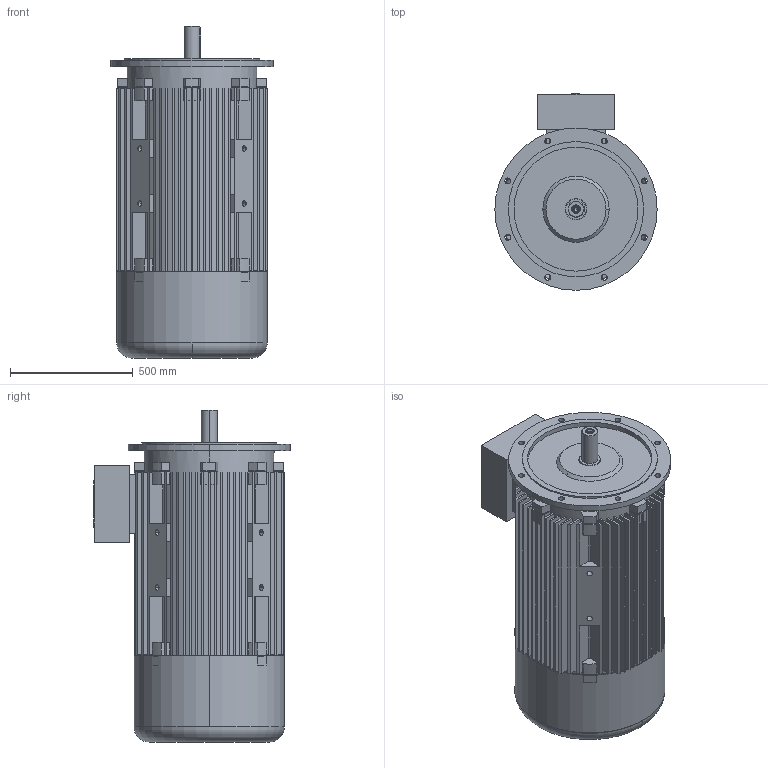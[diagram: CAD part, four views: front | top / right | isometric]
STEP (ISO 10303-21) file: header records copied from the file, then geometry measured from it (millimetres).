
FILE_DESCRIPTION (( 'STEP AP203' ), '1' );
FILE_NAME ('20.18382_B 7AZ 315LX -2 B5 STANDK.STEP', '2018-04-06T05:08:53', ( '' ), ( '' ), 'SwSTEP 2.0', 'SolidWorks 2017', '' );
FILE_SCHEMA (( 'CONFIG_CONTROL_DESIGN' ));
Length unit declared in the file: millimetre
Products named in the file (1): 20.18382_B  7AZ 315LX -2 B5 STANDK
Bounding box: 660 x 800 x 1350 mm (x, y, z)
Volume: 93823735.3 mm3; surface area: 11563630.5 mm2
Topology: 6 solids, 6 shells, 782 faces, 2089 edges, 1373 vertices
Faces by surface type: plane 609, cylinder 126, cone 34, bspline 9, torus 4
Entity records: 24395 total; most frequent: CARTESIAN_POINT 4460, ORIENTED_EDGE 4142, DIRECTION 4087, EDGE_CURVE 2071, VECTOR 1543, LINE 1543, VERTEX_POINT 1373, AXIS2_PLACEMENT_3D 1272
